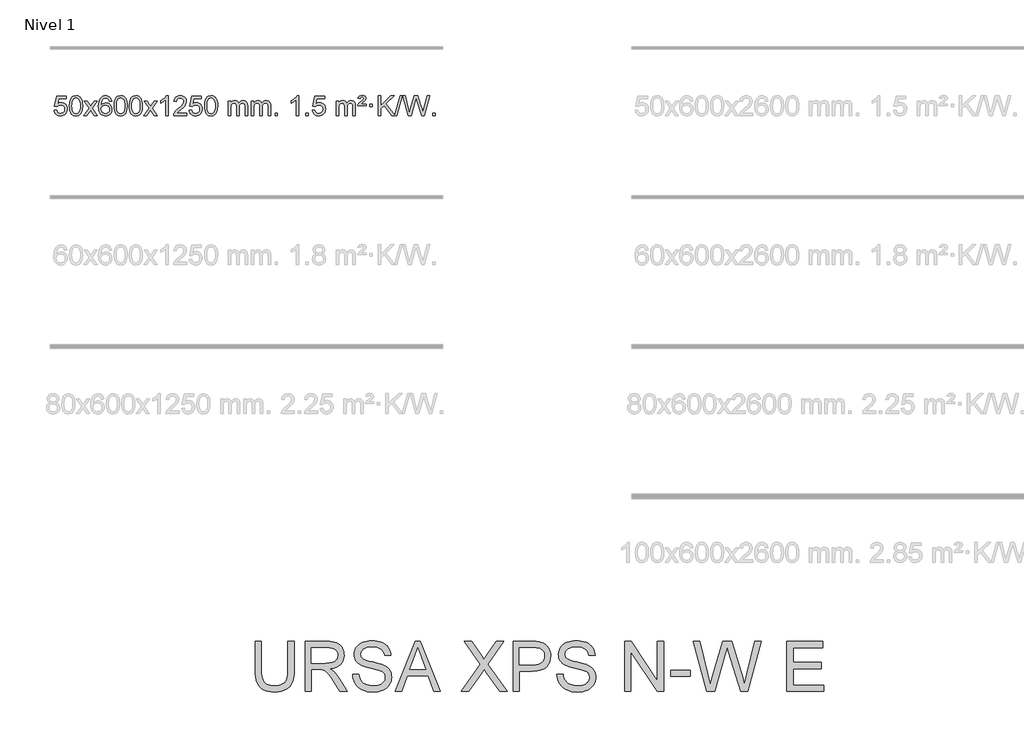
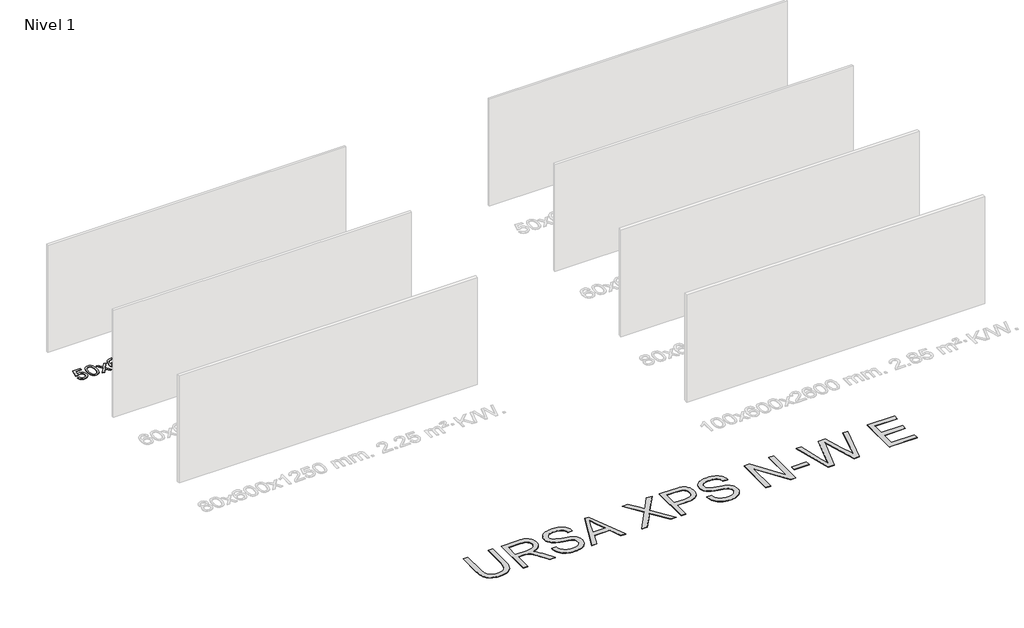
# One storey, part 3 of 9: 2 proxies.
"""IFC4 building model written with IfcOpenShell, lengths in millimetres."""

from ifc_helpers import new_model, si_unit, origin, origin_with_axes, place, context, project, spatial, polyline, outline, extrude, element, save

model = new_model("IFC4")

# Units and contexts
model_context = context("Model", 3, world=origin())
ifc_project = project(units=[si_unit("LENGTHUNIT", "METRE", prefix="MILLI")], contexts=[model_context])

# Site, building, storey
site = spatial("IfcSite", under=ifc_project)
building = spatial("IfcBuilding", under=site)
storey = spatial("IfcBuildingStorey", under=building, Name="Nivel 1", Elevation=0.0)

# Proxies
placement = place(None, origin())
element("IfcBuildingElementProxy", 1, Name="Texto de modelo 1", ObjectType="Texto de modelo 1", at=placement, inside=storey, context=model_context, shape_type="SweptSolid", body=[
    extrude(outline(polyline([(-6456.1697105, -284.8446235), (-6405.9415554, -278.5661041), (-6396.71998, -308.7201649), (-6380.6312741, -330.3148381), (-6357.749014, -343.3010725), (-6328.1467761, -347.6298173), (-6309.0169124, -346.1245668), (-6292.1433915, -341.6088153), (-6277.5262136, -334.0825628), (-6265.1653786, -323.5458094), (-6255.3367979, -310.519721), (-6248.3163832, -295.5254641), (-6242.7000514, -259.6324441), (-6247.9607639, -225.8363514), (-6254.5366546, -211.9181493), (-6263.7429015, -199.9865099), (-6275.6101615, -190.4154467), (-6290.1690915, -183.5789729), (-6327.3619612, -178.1097939), (-6351.728012, -180.2925604), (-6371.4587497, -186.8408599), (-6387.2163618, -196.8717757), (-6399.663036, -209.5023908), (-6449.8911911, -203.2238715), (-6405.9415554, 3.9672682), (-6211.3074545, 3.9672682), (-6211.3074545, -46.2608869), (-6365.3273831, -46.2608869), (-6386.8116916, -156.919791), (-6369.0859108, -144.2155994), (-6350.9309344, -135.1411769), (-6332.3467623, -129.6965234), (-6313.3333945, -127.8816388), (-6288.8723075, -130.1318504), (-6266.4039146, -136.882485), (-6245.9282159, -148.1335427), (-6227.4452113, -163.8850234), (-6212.144386, -183.1743027), (-6201.2152251, -205.038756), (-6194.6577285, -229.4783832), (-6192.4718963, -256.4931844), (-6194.440065, -282.5147042), (-6200.344571, -306.7213394), (-6210.1854144, -329.1130902), (-6223.9625951, -349.6899565), (-6244.833767, -370.7634634), (-6269.187555, -385.8159684), (-6297.0239593, -394.8474714), (-6328.3429799, -397.8579724), (-6354.2633321, -395.9235262), (-6377.6759554, -390.1201877), (-6398.5808498, -380.447957), (-6416.9780152, -366.9068338), (-6432.2849719, -350.1712688), (-6443.91924, -330.915712), (-6451.8808195, -309.1401636), (-6456.1697105, -284.8446235)])), origin_with_axes(), (0.0, 0.0, 1.0), 10.0),
    extrude(outline(polyline([(-6148.5222606, -193.9041943), (-6144.8311779, -129.5861588), (-6133.7579299, -78.2911459), (-6115.4128811, -39.2343407), (-6103.5548181, -24.0009605), (-6089.9063961, -11.6309284), (-6074.4216298, -2.0598651), (-6057.0545339, 4.7766086), (-6016.6733536, 10.2457876), (-5985.722215, 7.008426), (-5958.0084381, -2.7036586), (-5934.8318724, -18.5103217), (-5917.4923677, -40.0314184), (-5904.3957686, -67.0830078), (-5893.94792, -99.4811488), (-5887.1053149, -140.6226186), (-5884.8244465, -193.9041943), (-5888.478741, -257.8543477), (-5899.4416244, -309.0267333), (-5917.6763087, -348.1203266), (-5929.5067805, -363.3996922), (-5943.1460055, -375.8341036), (-5958.6491659, -385.4695462), (-5976.071444, -392.3520052), (-6016.6733536, -397.8579724), (-6044.3380796, -395.4667394), (-6068.8635459, -388.2930405), (-6090.2497526, -376.3368757), (-6108.4966996, -359.5982449), (-6126.0078825, -329.3399508), (-6138.5158704, -291.6381776), (-6146.0206631, -246.4929255), (-6148.5222606, -193.9041943)]), holes=[polyline([(-6098.2941056, -193.8060924), (-6096.8225776, -237.4706195), (-6092.4079936, -272.8148822), (-6085.0503537, -299.8388804), (-6074.7496579, -318.5426142), (-6062.290721, -331.2682656), (-6048.4583579, -340.3580165), (-6033.2525688, -345.8118671), (-6016.6733536, -347.6298173), (-6000.0941383, -345.8057357), (-5984.8883492, -340.3334911), (-5971.0559862, -331.2130833), (-5958.5970493, -318.4445124), (-5948.2963534, -299.7101217), (-5940.9387135, -272.6922549), (-5936.5241295, -237.3909118), (-5935.0526016, -193.8060924), (-5936.4750786, -151.2973278), (-5940.7425098, -116.5753989), (-5947.854895, -89.6403055), (-5957.8122343, -70.4920476), (-5970.0627048, -57.1440625), (-5984.0544833, -47.6097875), (-5999.78757, -41.8892225), (-6017.2619648, -39.9823675), (-6033.7553409, -41.6623619), (-6048.7036126, -46.7023452), (-6062.10678, -55.1023175), (-6073.9648429, -66.8622786), (-6084.6088953, -87.708925), (-6092.2117899, -115.8151094), (-6096.7735266, -151.1808319), (-6098.2941056, -193.8060924)])]), origin_with_axes(), (0.0, 0.0, 1.0), 10.0),
    extrude(outline(polyline([(-5859.7103689, -391.579453), (-5752.3869282, -243.2494325), (-5853.4318496, -96.4890419), (-5793.0011005, -96.4890419), (-5744.2444734, -167.122385), (-5721.4848406, -200.4770192), (-5701.7663657, -173.2047007), (-5646.2407099, -96.4890419), (-5585.8099608, -96.4890419), (-5691.9561791, -243.2494325), (-5589.7340354, -391.579453), (-5650.1647845, -391.579453), (-5711.6746541, -302.4048574), (-5722.9563686, -286.1199477), (-5799.2796199, -391.579453), (-5859.7103689, -391.579453)])), origin_with_axes(), (0.0, 0.0, 1.0), 10.0),
    extrude(outline(polyline([(-5300.9221437, -96.4890419), (-5351.1502988, -102.7675613), (-5359.2437027, -77.874213), (-5370.1820607, -60.8780648), (-5392.9662189, -45.2062918), (-5420.5083176, -39.9823675), (-5443.8565616, -43.0235253), (-5465.8313794, -52.1469988), (-5484.7037258, -71.3627017), (-5500.1179814, -97.8134171), (-5510.5290419, -135.227016), (-5514.3918028, -187.3313693), (-5494.2441322, -163.8237098), (-5470.0988106, -147.2567573), (-5443.3047386, -137.434308), (-5415.2108169, -134.1601582), (-5391.077758, -136.398107), (-5368.8086346, -143.1119534), (-5348.4034466, -154.3016975), (-5329.862194, -169.9673391), (-5314.4540698, -189.1769106), (-5303.4482668, -210.9984443), (-5296.844785, -235.4319401), (-5294.6436244, -262.4773982), (-5298.7884282, -298.4439945), (-5311.2228396, -331.786366), (-5330.9167891, -360.0642287), (-5356.840207, -380.8372987), (-5387.815871, -393.602804), (-5422.6665587, -397.8579724), (-5452.6090874, -395.0375437), (-5479.6514797, -386.5762579), (-5503.7937357, -372.4741147), (-5525.0358552, -352.7311143), (-5542.3539001, -326.5133908), (-5554.7239322, -292.9870783), (-5562.1459515, -252.1521768), (-5564.6199579, -204.0086864), (-5561.8731057, -150.0342663), (-5553.632549, -103.9693092), (-5539.8982878, -65.8138149), (-5520.6703222, -35.5677835), (-5499.8298072, -15.5243462), (-5475.6660915, -1.2076052), (-5448.179175, 7.3824394), (-5417.3690579, 10.2457876), (-5394.2354118, 8.4738227), (-5373.2967949, 3.1579278), (-5354.5532073, -5.7018969), (-5338.0046489, -18.1056515), (-5324.0987094, -33.6364031), (-5313.2829788, -51.8772186), (-5305.5574569, -72.8280983), (-5300.9221437, -96.4890419)]), holes=[polyline([(-5514.3918028, -261.6925832), (-5511.485535, -283.9494439), (-5502.7667318, -305.2007605), (-5489.2286743, -323.472233), (-5471.8646442, -336.7895612), (-5450.9076332, -344.9197533), (-5426.5906333, -347.6298173), (-5393.4444655, -342.0134855), (-5379.5293291, -334.9930708), (-5367.3861575, -325.1644901), (-5357.5361171, -312.9262824), (-5350.500374, -298.6769865), (-5344.8717794, -264.1451299), (-5350.4267976, -230.9989621), (-5357.3705702, -217.3781312), (-5367.0918519, -205.725469), (-5379.2718117, -196.3904634), (-5393.5916183, -189.7226022), (-5428.6507725, -184.3883133), (-5461.7478893, -189.7226022), (-5489.4248781, -205.725469), (-5500.3479076, -217.2248471), (-5508.1500716, -230.3858254), (-5512.83137, -245.2084042), (-5514.3918028, -261.6925832)])]), origin_with_axes(), (0.0, 0.0, 1.0), 10.0),
    extrude(outline(polyline([(-5250.6939887, -193.9041943), (-5247.002906, -129.5861588), (-5235.9296579, -78.2911459), (-5217.5846091, -39.2343407), (-5205.7265461, -24.0009605), (-5192.0781241, -11.6309284), (-5176.5933578, -2.0598651), (-5159.2262619, 4.7766086), (-5118.8450816, 10.2457876), (-5087.8939431, 7.008426), (-5060.1801661, -2.7036586), (-5037.0036004, -18.5103217), (-5019.6640957, -40.0314184), (-5006.5674967, -67.0830078), (-4996.119648, -99.4811488), (-4989.2770429, -140.6226186), (-4986.9961745, -193.9041943), (-4990.650469, -257.8543477), (-5001.6133525, -309.0267333), (-5019.8480367, -348.1203266), (-5031.6785085, -363.3996922), (-5045.3177335, -375.8341036), (-5060.8208939, -385.4695462), (-5078.2431721, -392.3520052), (-5118.8450816, -397.8579724), (-5146.5098076, -395.4667394), (-5171.035274, -388.2930405), (-5192.4214806, -376.3368757), (-5210.6684276, -359.5982449), (-5228.1796106, -329.3399508), (-5240.6875984, -291.6381776), (-5248.1923911, -246.4929255), (-5250.6939887, -193.9041943)]), holes=[polyline([(-5200.4658336, -193.8060924), (-5198.9943056, -237.4706195), (-5194.5797217, -272.8148822), (-5187.2220818, -299.8388804), (-5176.9213859, -318.5426142), (-5164.462449, -331.2682656), (-5150.630086, -340.3580165), (-5135.4242968, -345.8118671), (-5118.8450816, -347.6298173), (-5102.2658663, -345.8057357), (-5087.0600772, -340.3334911), (-5073.2277142, -331.2130833), (-5060.7687773, -318.4445124), (-5050.4680814, -299.7101217), (-5043.1104415, -272.6922549), (-5038.6958576, -237.3909118), (-5037.2243296, -193.8060924), (-5038.6468066, -151.2973278), (-5042.9142378, -116.5753989), (-5050.026623, -89.6403055), (-5059.9839624, -70.4920476), (-5072.2344328, -57.1440625), (-5086.2262114, -47.6097875), (-5101.959298, -41.8892225), (-5119.4336928, -39.9823675), (-5135.9270689, -41.6623619), (-5150.8753406, -46.7023452), (-5164.278508, -55.1023175), (-5176.136571, -66.8622786), (-5186.7806234, -87.708925), (-5194.3835179, -115.8151094), (-5198.9452547, -151.1808319), (-5200.4658336, -193.8060924)])]), origin_with_axes(), (0.0, 0.0, 1.0), 10.0),
    extrude(outline(polyline([(-4943.0465388, -193.9041943), (-4939.3554561, -129.5861588), (-4928.2822081, -78.2911459), (-4909.9371593, -39.2343407), (-4898.0790963, -24.0009605), (-4884.4306743, -11.6309284), (-4868.945908, -2.0598651), (-4851.5788121, 4.7766086), (-4811.1976318, 10.2457876), (-4780.2464932, 7.008426), (-4752.5327163, -2.7036586), (-4729.3561506, -18.5103217), (-4712.0166459, -40.0314184), (-4698.9200468, -67.0830078), (-4688.4721982, -99.4811488), (-4681.6295931, -140.6226186), (-4679.3487247, -193.9041943), (-4683.0030192, -257.8543477), (-4693.9659026, -309.0267333), (-4712.2005869, -348.1203266), (-4724.0310587, -363.3996922), (-4737.6702837, -375.8341036), (-4753.1734441, -385.4695462), (-4770.5957222, -392.3520052), (-4811.1976318, -397.8579724), (-4838.8623578, -395.4667394), (-4863.3878241, -388.2930405), (-4884.7740308, -376.3368757), (-4903.0209778, -359.5982449), (-4920.5321607, -329.3399508), (-4933.0401486, -291.6381776), (-4940.5449413, -246.4929255), (-4943.0465388, -193.9041943)]), holes=[polyline([(-4892.8183838, -193.8060924), (-4891.3468558, -237.4706195), (-4886.9322718, -272.8148822), (-4879.5746319, -299.8388804), (-4869.2739361, -318.5426142), (-4856.8149992, -331.2682656), (-4842.9826361, -340.3580165), (-4827.776847, -345.8118671), (-4811.1976318, -347.6298173), (-4794.6184165, -345.8057357), (-4779.4126274, -340.3334911), (-4765.5802644, -331.2130833), (-4753.1213275, -318.4445124), (-4742.8206316, -299.7101217), (-4735.4629917, -272.6922549), (-4731.0484077, -237.3909118), (-4729.5768798, -193.8060924), (-4730.9993568, -151.2973278), (-4735.266788, -116.5753989), (-4742.3791732, -89.6403055), (-4752.3365125, -70.4920476), (-4764.586983, -57.1440625), (-4778.5787615, -47.6097875), (-4794.3118482, -41.8892225), (-4811.786243, -39.9823675), (-4828.2796191, -41.6623619), (-4843.2278908, -46.7023452), (-4856.6310582, -55.1023175), (-4868.4891211, -66.8622786), (-4879.1331735, -87.708925), (-4886.7360681, -115.8151094), (-4891.2978048, -151.1808319), (-4892.8183838, -193.8060924)])]), origin_with_axes(), (0.0, 0.0, 1.0), 10.0),
    extrude(outline(polyline([(-4654.2346472, -391.579453), (-4546.9112064, -243.2494325), (-4647.9561278, -96.4890419), (-4587.5253787, -96.4890419), (-4538.7687516, -167.122385), (-4516.0091188, -200.4770192), (-4496.2906439, -173.2047007), (-4440.7649881, -96.4890419), (-4380.334239, -96.4890419), (-4486.4804574, -243.2494325), (-4384.2583136, -391.579453), (-4444.6890627, -391.579453), (-4506.1989323, -302.4048574), (-4517.4806468, -286.1199477), (-4593.8038981, -391.579453), (-4654.2346472, -391.579453)])), origin_with_axes(), (0.0, 0.0, 1.0), 10.0),
    extrude(outline(polyline([(-4164.5101352, -391.579453), (-4214.7382902, -391.579453), (-4214.7382902, -78.4382987), (-4235.707564, -95.3976587), (-4262.317695, -112.3324932), (-4315.1946004, -137.6918254), (-4315.1946004, -90.2105225), (-4275.7453878, -68.7507395), (-4241.5691504, -43.219729), (-4214.6279257, -16.0700378), (-4196.8837508, 10.2457876), (-4164.5101352, 10.2457876), (-4164.5101352, -391.579453)])), origin_with_axes(), (0.0, 0.0, 1.0), 10.0),
    extrude(outline(polyline([(-3787.7989721, -341.3512979), (-3787.7989721, -391.579453), (-4051.4967863, -391.579453), (-4050.3931403, -373.8965918), (-4046.1011837, -356.9494945), (-4033.7158232, -329.8856424), (-4015.5915035, -303.6311307), (-3989.37378, -276.1503456), (-3952.7082078, -245.4076736), (-3898.5069272, -197.2641831), (-3865.9861588, -161.7267824), (-3849.7257746, -132.884834), (-3844.3056466, -104.8277005), (-3849.4192063, -79.6768347), (-3864.7598855, -58.7688747), (-3888.3411214, -44.6789943), (-3918.1763512, -39.9823675), (-3949.5076345, -44.5686297), (-3973.8491598, -58.3274163), (-3989.557721, -80.1796068), (-3994.9901118, -109.0460807), (-4045.2182669, -102.7675613), (-4040.8987191, -76.838012), (-4033.0413728, -54.1826125), (-4021.646228, -34.8013627), (-4006.7132847, -18.6942627), (-3988.5858994, -6.0329907), (-3967.6074286, 3.010775), (-3943.7778724, 8.4370345), (-3917.0972307, 10.2457876), (-3890.1774657, 8.2346994), (-3866.2191508, 2.2014346), (-3845.2222859, -7.8540066), (-3827.1868711, -21.9316242), (-3812.7015175, -38.9890861), (-3802.3548364, -57.9840598), (-3796.1468277, -78.9165453), (-3794.0774915, -101.7865427), (-3796.3093089, -125.8092369), (-3803.0047612, -149.4149983), (-3814.8873497, -173.4254299), (-3832.6805755, -198.6621347), (-3861.0442774, -228.7916701), (-3904.6382938, -267.4805933), (-3962.4202925, -315.795762), (-3985.0818234, -341.3512979), (-3787.7989721, -341.3512979)])), origin_with_axes(), (0.0, 0.0, 1.0), 10.0),
    extrude(outline(polyline([(-3737.570817, -284.8446235), (-3687.342662, -278.5661041), (-3678.1210866, -308.7201649), (-3662.0323807, -330.3148381), (-3639.1501206, -343.3010725), (-3609.5478827, -347.6298173), (-3590.418019, -346.1245668), (-3573.5444981, -341.6088153), (-3558.9273202, -334.0825628), (-3546.5664851, -323.5458094), (-3536.7379045, -310.519721), (-3529.7174898, -295.5254641), (-3524.101158, -259.6324441), (-3529.3618705, -225.8363514), (-3535.9377612, -211.9181493), (-3545.1440081, -199.9865099), (-3557.0112681, -190.4154467), (-3571.5701981, -183.5789729), (-3608.7630678, -178.1097939), (-3633.1291186, -180.2925604), (-3652.8598563, -186.8408599), (-3668.6174684, -196.8717757), (-3681.0641426, -209.5023908), (-3731.2922977, -203.2238715), (-3687.342662, 3.9672682), (-3492.708561, 3.9672682), (-3492.708561, -46.2608869), (-3646.7284897, -46.2608869), (-3668.2127982, -156.919791), (-3650.4870174, -144.2155994), (-3632.332041, -135.1411769), (-3613.7478688, -129.6965234), (-3594.734501, -127.8816388), (-3570.273414, -130.1318504), (-3547.8050212, -136.882485), (-3527.3293225, -148.1335427), (-3508.8463179, -163.8850234), (-3493.5454926, -183.1743027), (-3482.6163316, -205.038756), (-3476.0588351, -229.4783832), (-3473.8730029, -256.4931844), (-3475.8411716, -282.5147042), (-3481.7456776, -306.7213394), (-3491.586521, -329.1130902), (-3505.3637017, -349.6899565), (-3526.2348735, -370.7634634), (-3550.5886616, -385.8159684), (-3578.4250659, -394.8474714), (-3609.7440864, -397.8579724), (-3635.6644387, -395.9235262), (-3659.077062, -390.1201877), (-3679.9819564, -380.447957), (-3698.3791218, -366.9068338), (-3713.6860785, -350.1712688), (-3725.3203466, -330.915712), (-3733.2819261, -309.1401636), (-3737.570817, -284.8446235)])), origin_with_axes(), (0.0, 0.0, 1.0), 10.0),
    extrude(outline(polyline([(-3429.9233672, -193.9041943), (-3426.2322845, -129.5861588), (-3415.1590365, -78.2911459), (-3396.8139876, -39.2343407), (-3384.9559247, -24.0009605), (-3371.3075026, -11.6309284), (-3355.8227363, -2.0598651), (-3338.4556405, 4.7766086), (-3298.0744601, 10.2457876), (-3267.1233216, 7.008426), (-3239.4095446, -2.7036586), (-3216.2329789, -18.5103217), (-3198.8934742, -40.0314184), (-3185.7968752, -67.0830078), (-3175.3490265, -99.4811488), (-3168.5064214, -140.6226186), (-3166.2255531, -193.9041943), (-3169.8798475, -257.8543477), (-3180.842731, -309.0267333), (-3199.0774152, -348.1203266), (-3210.9078871, -363.3996922), (-3224.547112, -375.8341036), (-3240.0502724, -385.4695462), (-3257.4725506, -392.3520052), (-3298.0744601, -397.8579724), (-3325.7391862, -395.4667394), (-3350.2646525, -388.2930405), (-3371.6508592, -376.3368757), (-3389.8978061, -359.5982449), (-3407.4089891, -329.3399508), (-3419.9169769, -291.6381776), (-3427.4217696, -246.4929255), (-3429.9233672, -193.9041943)]), holes=[polyline([(-3379.6952121, -193.8060924), (-3378.2236842, -237.4706195), (-3373.8091002, -272.8148822), (-3366.4514603, -299.8388804), (-3356.1507644, -318.5426142), (-3343.6918275, -331.2682656), (-3329.8594645, -340.3580165), (-3314.6536754, -345.8118671), (-3298.0744601, -347.6298173), (-3281.4952449, -345.8057357), (-3266.2894558, -340.3334911), (-3252.4570927, -331.2130833), (-3239.9981558, -318.4445124), (-3229.69746, -299.7101217), (-3222.3398201, -272.6922549), (-3217.9252361, -237.3909118), (-3216.4537081, -193.8060924), (-3217.8761852, -151.2973278), (-3222.1436163, -116.5753989), (-3229.2560016, -89.6403055), (-3239.2133409, -70.4920476), (-3251.4638113, -57.1440625), (-3265.4555899, -47.6097875), (-3281.1886766, -41.8892225), (-3298.6630713, -39.9823675), (-3315.1564474, -41.6623619), (-3330.1047192, -46.7023452), (-3343.5078865, -55.1023175), (-3355.3659495, -66.8622786), (-3366.0100019, -87.708925), (-3373.6128965, -115.8151094), (-3378.1746332, -151.1808319), (-3379.6952121, -193.8060924)])]), origin_with_axes(), (0.0, 0.0, 1.0), 10.0),
    extrude(outline(polyline([(-2952.755894, -391.579453), (-2952.755894, -96.4890419), (-2902.5277389, -96.4890419), (-2902.5277389, -145.0494653), (-2887.4200517, -122.7435537), (-2867.9958823, -105.2691589), (-2844.9174185, -93.9751816), (-2818.8468478, -90.2105225), (-2790.9123416, -94.048758), (-2768.5205908, -105.5634645), (-2751.7942228, -123.9943524), (-2740.8558648, -148.5811324), (-2722.5476041, -123.0439906), (-2701.6641696, -104.803175), (-2678.205561, -93.8586857), (-2652.1717785, -90.2105225), (-2632.0639617, -91.7280358), (-2614.414823, -96.2805755), (-2599.2243623, -103.8681416), (-2586.4925796, -114.4907342), (-2576.4279413, -128.2709806), (-2569.238914, -145.3315082), (-2564.9254976, -165.6723168), (-2563.4876922, -189.2934066), (-2563.4876922, -391.579453), (-2613.7158472, -391.579453), (-2613.7158472, -210.875817), (-2614.8808069, -185.8230531), (-2618.3756858, -168.9372695), (-2624.9239854, -157.3735121), (-2635.2492067, -148.2868268), (-2648.5297467, -142.4007149), (-2663.9440023, -140.4386776), (-2691.1550072, -145.4663982), (-2713.3382915, -160.54956), (-2721.9436645, -172.1194488), (-2728.0903595, -186.7182326), (-2733.0077155, -225.0024856), (-2733.0077155, -391.579453), (-2783.2358706, -391.579453), (-2783.2358706, -205.2840106), (-2786.1421384, -176.8835206), (-2794.8609417, -156.6254854), (-2810.2016209, -144.4853796), (-2832.9735164, -140.4386776), (-2852.3241093, -143.1364789), (-2870.1541233, -151.2298828), (-2884.8694032, -164.5226856), (-2894.8757934, -182.8186835), (-2900.6147525, -208.2025411), (-2902.5277389, -242.7589232), (-2902.5277389, -391.579453), (-2952.755894, -391.579453)])), origin_with_axes(), (0.0, 0.0, 1.0), 10.0),
    extrude(outline(polyline([(-2488.1454596, -391.579453), (-2488.1454596, -96.4890419), (-2437.9173045, -96.4890419), (-2437.9173045, -145.0494653), (-2422.8096172, -122.7435537), (-2403.3854479, -105.2691589), (-2380.306984, -93.9751816), (-2354.2364133, -90.2105225), (-2326.3019071, -94.048758), (-2303.9101564, -105.5634645), (-2287.1837883, -123.9943524), (-2276.2454303, -148.5811324), (-2257.9371697, -123.0439906), (-2237.0537351, -104.803175), (-2213.5951266, -93.8586857), (-2187.561344, -90.2105225), (-2167.4535273, -91.7280358), (-2149.8043886, -96.2805755), (-2134.6139279, -103.8681416), (-2121.8821452, -114.4907342), (-2111.8175069, -128.2709806), (-2104.6284796, -145.3315082), (-2100.3150632, -165.6723168), (-2098.8772577, -189.2934066), (-2098.8772577, -391.579453), (-2149.1054128, -391.579453), (-2149.1054128, -210.875817), (-2150.2703724, -185.8230531), (-2153.7652514, -168.9372695), (-2160.3135509, -157.3735121), (-2170.6387722, -148.2868268), (-2183.9193123, -142.4007149), (-2199.3335679, -140.4386776), (-2226.5445728, -145.4663982), (-2248.7278571, -160.54956), (-2257.3332301, -172.1194488), (-2263.4799251, -186.7182326), (-2268.3972811, -225.0024856), (-2268.3972811, -391.579453), (-2318.6254362, -391.579453), (-2318.6254362, -205.2840106), (-2321.5317039, -176.8835206), (-2330.2505072, -156.6254854), (-2345.5911864, -144.4853796), (-2368.3630819, -140.4386776), (-2387.7136749, -143.1364789), (-2405.5436889, -151.2298828), (-2420.2589687, -164.5226856), (-2430.265359, -182.8186835), (-2436.0043181, -208.2025411), (-2437.9173045, -242.7589232), (-2437.9173045, -391.579453), (-2488.1454596, -391.579453)])), origin_with_axes(), (0.0, 0.0, 1.0), 10.0),
    extrude(outline(polyline([(-2010.9779863, -391.579453), (-2010.9779863, -341.3512979), (-1960.7498313, -341.3512979), (-1960.7498313, -391.579453), (-2010.9779863, -391.579453)])), origin_with_axes(), (0.0, 0.0, 1.0), 10.0),
    extrude(outline(polyline([(-1533.8105131, -391.579453), (-1584.0386682, -391.579453), (-1584.0386682, -78.4382987), (-1605.0079419, -95.3976587), (-1631.6180729, -112.3324932), (-1684.4949784, -137.6918254), (-1684.4949784, -90.2105225), (-1645.0457657, -68.7507395), (-1610.8695284, -43.219729), (-1583.9283036, -16.0700378), (-1566.1841287, 10.2457876), (-1533.8105131, 10.2457876), (-1533.8105131, -391.579453)])), origin_with_axes(), (0.0, 0.0, 1.0), 10.0),
    extrude(outline(polyline([(-1389.4045673, -391.579453), (-1389.4045673, -341.3512979), (-1339.1764122, -341.3512979), (-1339.1764122, -391.579453), (-1389.4045673, -391.579453)])), origin_with_axes(), (0.0, 0.0, 1.0), 10.0),
    extrude(outline(polyline([(-1257.5556602, -284.8446235), (-1207.3275051, -278.5661041), (-1198.1059298, -308.7201649), (-1182.0172239, -330.3148381), (-1159.1349638, -343.3010725), (-1129.5327259, -347.6298173), (-1110.4028621, -346.1245668), (-1093.5293413, -341.6088153), (-1078.9121634, -334.0825628), (-1066.5513283, -323.5458094), (-1056.7227477, -310.519721), (-1049.7023329, -295.5254641), (-1044.0860012, -259.6324441), (-1049.3467137, -225.8363514), (-1055.9226043, -211.9181493), (-1065.1288513, -199.9865099), (-1076.9961113, -190.4154467), (-1091.5550413, -183.5789729), (-1128.747911, -178.1097939), (-1153.1139618, -180.2925604), (-1172.8446995, -186.8408599), (-1188.6023116, -196.8717757), (-1201.0489858, -209.5023908), (-1251.2771408, -203.2238715), (-1207.3275051, 3.9672682), (-1012.6934042, 3.9672682), (-1012.6934042, -46.2608869), (-1166.7133329, -46.2608869), (-1188.1976414, -156.919791), (-1170.4718606, -144.2155994), (-1152.3168841, -135.1411769), (-1133.732712, -129.6965234), (-1114.7193442, -127.8816388), (-1090.2582572, -130.1318504), (-1067.7898644, -136.882485), (-1047.3141657, -148.1335427), (-1028.8311611, -163.8850234), (-1013.5303358, -183.1743027), (-1002.6011748, -205.038756), (-996.0436783, -229.4783832), (-993.8578461, -256.4931844), (-995.8260148, -282.5147042), (-1001.7305208, -306.7213394), (-1011.5713641, -329.1130902), (-1025.3485449, -349.6899565), (-1046.2197167, -370.7634634), (-1070.5735048, -385.8159684), (-1098.4099091, -394.8474714), (-1129.7289296, -397.8579724), (-1155.6492819, -395.9235262), (-1179.0619052, -390.1201877), (-1199.9667996, -380.447957), (-1218.363965, -366.9068338), (-1233.6709217, -350.1712688), (-1245.3051898, -330.915712), (-1253.2667693, -309.1401636), (-1257.5556602, -284.8446235)])), origin_with_axes(), (0.0, 0.0, 1.0), 10.0),
    extrude(outline(polyline([(-780.388187, -391.579453), (-780.388187, -96.4890419), (-730.1600319, -96.4890419), (-730.1600319, -145.0494653), (-715.0523447, -122.7435537), (-695.6281753, -105.2691589), (-672.5497115, -93.9751816), (-646.4791408, -90.2105225), (-618.5446346, -94.048758), (-596.1528838, -105.5634645), (-579.4265158, -123.9943524), (-568.4881578, -148.5811324), (-550.1798972, -123.0439906), (-529.2964626, -104.803175), (-505.837854, -93.8586857), (-479.8040715, -90.2105225), (-459.6962548, -91.7280358), (-442.047116, -96.2805755), (-426.8566553, -103.8681416), (-414.1248726, -114.4907342), (-404.0602344, -128.2709806), (-396.871207, -145.3315082), (-392.5577906, -165.6723168), (-391.1199852, -189.2934066), (-391.1199852, -391.579453), (-441.3481403, -391.579453), (-441.3481403, -210.875817), (-442.5130999, -185.8230531), (-446.0079789, -168.9372695), (-452.5562784, -157.3735121), (-462.8814997, -148.2868268), (-476.1620397, -142.4007149), (-491.5762953, -140.4386776), (-518.7873002, -145.4663982), (-540.9705845, -160.54956), (-549.5759576, -172.1194488), (-555.7226526, -186.7182326), (-560.6400086, -225.0024856), (-560.6400086, -391.579453), (-610.8681636, -391.579453), (-610.8681636, -205.2840106), (-613.7744314, -176.8835206), (-622.4932347, -156.6254854), (-637.8339139, -144.4853796), (-660.6058094, -140.4386776), (-679.9564023, -143.1364789), (-697.7864164, -151.2298828), (-712.5016962, -164.5226856), (-722.5080864, -182.8186835), (-728.2470456, -208.2025411), (-730.1600319, -242.7589232), (-730.1600319, -391.579453), (-780.388187, -391.579453)])), origin_with_axes(), (0.0, 0.0, 1.0), 10.0),
    extrude(outline(polyline([(-347.1703495, -190.6668327), (-343.3443767, -174.8479069), (-335.0057182, -158.9799302), (-313.4968842, -133.8413272), (-281.5402016, -106.1030247), (-237.3943621, -68.726214), (-230.2574514, -57.1992448), (-227.8784812, -45.3779701), (-229.7669421, -33.2869152), (-235.4323248, -23.5012541), (-244.801053, -17.026531), (-257.7995501, -14.8682899), (-270.2339616, -16.4869707), (-279.0876549, -21.343013), (-285.5133271, -30.8098431), (-290.663675, -46.2608869), (-340.8918301, -39.9823675), (-330.051574, -14.7701881), (-313.4233078, 2.7900458), (-289.6581309, 13.0907417), (-257.4071427, 16.524307), (-221.6244873, 12.3917659), (-196.8782917, -0.0058573), (-182.4573175, -18.3386434), (-177.6503261, -40.2766731), (-181.746079, -63.1834586), (-194.0333376, -84.8149199), (-214.561153, -104.6314968), (-251.0305214, -132.6886303), (-276.6351083, -159.2742358), (-177.6503261, -159.2742358), (-177.6503261, -190.6668327), (-347.1703495, -190.6668327)])), origin_with_axes(), (0.0, 0.0, 1.0), 10.0),
    extrude(outline(polyline([(-102.3080935, -215.7809102), (-102.3080935, -165.5527552), (-52.0799384, -165.5527552), (-52.0799384, -215.7809102), (-102.3080935, -215.7809102)])), origin_with_axes(), (0.0, 0.0, 1.0), 10.0),
    extrude(outline(polyline([(338.5616895, -391.579453), (185.1303721, -188.9009991), (117.440085, -253.4520265), (117.440085, -391.579453), (67.2119299, -391.579453), (67.2119299, 10.2457876), (117.440085, 10.2457876), (117.440085, -186.4484525), (323.4540023, 10.2457876), (393.6949379, 10.2457876), (220.7413492, -154.9577537), (395.3949591, -385.5349332), (506.7082868, 10.2457876), (552.0313486, 10.2457876), (439.0179997, -391.579453), (399.9734572, -391.579453), (393.6949379, -391.579453), (338.5616895, -391.579453)])), origin_with_axes(), (0.0, 0.0, 1.0), 10.0),
    extrude(outline(polyline([(666.5162255, -391.579453), (556.9364419, 10.2457876), (608.7342268, 10.2457876), (672.3042355, -253.844434), (691.9246086, -335.3670841), (712.9184078, -263.2622131), (792.5771225, 10.2457876), (867.2326421, 10.2457876), (925.1127426, -188.0180823), (949.9079891, -261.5944814), (968.1794615, -335.3670841), (987.2112234, -256.1988788), (1051.3698434, 10.2457876), (1103.1676283, 10.2457876), (993.4897428, -391.579453), (939.8280224, -391.579453), (843.4919906, -81.5775584), (830.0520351, -38.3146358), (814.9443478, -90.4067263), (727.1431783, -391.579453), (666.5162255, -391.579453)])), origin_with_axes(), (0.0, 0.0, 1.0), 10.0),
    extrude(outline(polyline([(1159.6743028, -391.579453), (1159.6743028, -341.3512979), (1209.9024578, -341.3512979), (1209.9024578, -391.579453), (1159.6743028, -391.579453)])), origin_with_axes(), (0.0, 0.0, 1.0), 10.0),
])
element("IfcBuildingElementProxy", 2, Name="Texto de modelo 2", ObjectType="Texto de modelo 2", at=placement, inside=storey, context=model_context, shape_type="SweptSolid", body=[
    extrude(outline(polyline([(-1751.1233615, -10983.8387308), (-1625.5529738, -10983.8387308), (-1625.5529738, -11563.3755006), (-1627.6836237, -11635.1354823), (-1634.0755734, -11699.0933), (-1644.7288228, -11755.2489537), (-1659.643372, -11803.6024434), (-1680.106808, -11845.985515), (-1707.4067177, -11884.229914), (-1741.5431012, -11918.3356407), (-1782.5159584, -11948.3026949), (-1830.3712746, -11972.7131981), (-1885.1550351, -11990.1492718), (-1946.8672398, -12000.6109161), (-2015.5078887, -12004.0981308), (-2082.4547476, -12001.0631043), (-2143.0096569, -11991.958025), (-2197.1726164, -11976.7828927), (-2244.9436264, -11955.5377074), (-2286.3303508, -11928.5367018), (-2321.340454, -11896.0941084), (-2349.973936, -11858.2099271), (-2372.2307967, -11814.8841579), (-2388.915778, -11764.6299446), (-2400.8336218, -11705.9604305), (-2407.9843281, -11638.8756159), (-2410.3678969, -11563.3755006), (-2410.3678969, -10983.8387308), (-2284.7975092, -10983.8387308), (-2284.7975092, -11558.9609166), (-2283.2493391, -11619.66911), (-2278.6048289, -11671.8087187), (-2270.8639786, -11715.3797425), (-2260.0267882, -11750.3821815), (-2245.4188073, -11779.3452244), (-2226.3655856, -11804.7980599), (-2202.8671232, -11826.7406881), (-2174.9234199, -11845.1731089), (-2143.0709705, -11859.7657614), (-2107.8462695, -11870.1890846), (-2069.2493168, -11876.4430785), (-2027.2801125, -11878.5277431), (-1958.0723122, -11874.4043991), (-1899.5637465, -11862.034367), (-1851.7544156, -11841.4176468), (-1831.8619631, -11828.0167788), (-1814.6443193, -11812.5542386), (-1799.7565948, -11794.1601389), (-1786.8539003, -11771.9645918), (-1767.003601, -11716.1691559), (-1755.0934214, -11645.1679308), (-1751.1233615, -11558.9609166), (-1751.1233615, -10983.8387308)])), origin_with_axes(), (0.0, 0.0, 1.0), 10.0),
    extrude(outline(polyline([(-1405.8047954, -11988.4018323), (-1405.8047954, -10983.8387308), (-972.9303144, -10983.8387308), (-910.7965782, -10985.5325209), (-856.5876334, -10990.6138909), (-810.3034799, -10999.082841), (-771.9441177, -11010.9393712), (-739.2792622, -11027.0955221), (-710.0786288, -11048.4633347), (-684.3422176, -11075.0428088), (-662.0700284, -11106.8339446), (-644.0974601, -11142.1276235), (-631.2599113, -11179.2147271), (-623.5573821, -11218.0952555), (-620.9898723, -11258.7692086), (-625.2435079, -11310.3646584), (-638.0044146, -11357.7294653), (-659.2725924, -11400.8636292), (-689.0480414, -11439.7671502), (-727.713972, -11473.1984265), (-775.6535944, -11499.9158564), (-832.8669089, -11519.9194399), (-899.3539153, -11533.209177), (-857.9671909, -11560.2485036), (-827.9848083, -11586.9199483), (-776.5426426, -11647.9270458), (-726.2041229, -11716.1691559), (-558.6951878, -11988.4018323), (-704.6217125, -11988.4018323), (-835.3424482, -11780.1806231), (-887.6430051, -11700.7181121), (-929.7654936, -11642.3475022), (-964.8675673, -11602.1563942), (-996.1068801, -11577.2323891), (-1025.6907238, -11562.6090798), (-1055.8263906, -11553.3200594), (-1128.6670257, -11548.9054754), (-1280.2344077, -11548.9054754), (-1280.2344077, -11988.4018323), (-1405.8047954, -11988.4018323)]), holes=[polyline([(-1280.2344077, -11423.3350877), (-999.1725634, -11423.3350877), (-918.4531222, -11418.889847), (-855.8212126, -11405.5541246), (-830.6366243, -11395.3300709), (-808.6710035, -11382.4388726), (-789.9243502, -11366.8805299), (-774.3966643, -11348.6550427), (-762.2182374, -11328.6591234), (-753.5193611, -11307.7894844), (-748.3000353, -11286.0461257), (-746.56026, -11263.4290472), (-749.8788622, -11231.3160147), (-759.8346687, -11202.176695), (-776.4276795, -11176.0110881), (-799.6578946, -11152.819194), (-830.0618087, -11133.827286), (-868.1759162, -11120.2616374), (-914.0002173, -11112.1222482), (-967.5347118, -11109.4091185), (-1280.2344077, -11109.4091185), (-1280.2344077, -11423.3350877)])]), origin_with_axes(), (0.0, 0.0, 1.0), 10.0),
    extrude(outline(polyline([(-448.3305892, -11643.0832662), (-322.7602016, -11643.0832662), (-317.0120454, -11679.6338753), (-308.3514901, -11712.7662475), (-296.7785356, -11742.4803828), (-282.2931821, -11768.7762812), (-264.1596654, -11792.1827732), (-241.6422216, -11813.228689), (-214.7408507, -11831.9140286), (-183.4555527, -11848.2387922), (-148.9359588, -11861.4902082), (-112.3317003, -11870.9555054), (-73.6427772, -11876.6346837), (-32.8691894, -11878.5277431), (37.0897034, -11872.7949154), (68.8041971, -11865.6288807), (98.3420556, -11855.5964321), (124.9751792, -11843.0577874), (147.9754681, -11828.3731644), (167.3429223, -11811.5425632), (183.0775418, -11792.5659836), (195.2559687, -11772.263496), (203.954845, -11751.4551706), (209.1741708, -11730.1410075), (210.9139461, -11708.3210067), (205.7022845, -11666.2904887), (190.0672997, -11629.9621417), (176.9155184, -11613.8443118), (158.3068208, -11598.9680836), (134.241207, -11585.3334572), (104.7186768, -11572.9404325), (38.4079472, -11553.2280889), (-78.1186748, -11524.9931457), (-198.1401757, -11493.2633237), (-241.9411257, -11477.9732282), (-274.9355422, -11463.0663432), (-308.4664532, -11443.0627597), (-337.4448245, -11420.8212274), (-361.8706562, -11396.3417463), (-381.7439481, -11369.6243164), (-397.1413425, -11340.9448492), (-408.1394813, -11310.5792562), (-414.7383646, -11278.5275374), (-416.9379923, -11244.7896928), (-414.2171984, -11207.3960208), (-406.0548166, -11171.2439506), (-392.450847, -11136.333482), (-373.4052896, -11102.6646153), (-349.1327421, -11071.6092435), (-319.8478024, -11044.53926), (-285.5504706, -11021.4546648), (-246.2407466, -11002.3554579), (-203.2445384, -10987.3872593), (-157.887754, -10976.6956888), (-110.1703936, -10970.2807465), (-60.092457, -10968.1424324), (-5.4619807, -10970.3803812), (45.8575576, -10977.0942276), (93.866158, -10988.2839716), (138.5638204, -11003.9496132), (179.1228104, -11023.9531967), (214.7153934, -11048.1567663), (245.3415695, -11076.560322), (271.0013387, -11109.1638639), (291.4954315, -11145.01703), (306.6245785, -11183.1694586), (316.3887798, -11223.6211496), (320.7880353, -11266.3721031), (195.2176477, -11266.3721031), (186.8176754, -11226.3036225), (172.1637093, -11191.4468035), (151.2557492, -11161.801646), (124.0937953, -11137.3681502), (90.1720096, -11118.2689432), (48.9845546, -11104.6266526), (0.5314301, -11096.4412782), (-55.1873637, -11093.7128201), (-112.6842539, -11096.4106214), (-161.8118287, -11104.5040253), (-202.570088, -11117.9930317), (-234.959032, -11136.8776408), (-259.6377825, -11159.5790256), (-277.2654615, -11184.5183592), (-287.8420688, -11211.6956416), (-291.3676046, -11241.1108728), (-288.8690727, -11266.4180884), (-281.3734771, -11289.3647278), (-268.8808177, -11309.9507911), (-251.3910945, -11328.1762783), (-223.8612585, -11345.4360753), (-180.5124968, -11362.8798132), (-121.3448092, -11380.5074921), (-46.3581958, -11398.3191121), (92.0880617, -11431.9803146), (140.8017692, -11447.2014322), (175.8425292, -11461.3495606), (214.3398472, -11482.7940152), (247.4262341, -11506.9056143), (275.1016901, -11533.6843579), (297.366215, -11563.1302459), (314.480392, -11595.0899942), (326.7048041, -11629.4103187), (334.0394514, -11666.0912193), (336.4843338, -11705.1326961), (333.6715694, -11744.4117632), (325.2332761, -11782.5411992), (311.169454, -11819.5210039), (291.4801031, -11855.3511774), (266.5101126, -11888.644498), (236.6043721, -11918.0137439), (201.7628815, -11943.4589153), (161.9856408, -11964.980012), (118.4299454, -11982.094189), (72.2530908, -11994.3186011), (23.4550769, -12001.6532484), (-27.9640961, -12004.0981308), (-92.1978253, -12001.4616432), (-150.9899666, -11993.5521803), (-204.3405201, -11980.3697421), (-252.2494858, -11961.9143287), (-295.0081035, -11938.1552832), (-332.9076133, -11909.0619487), (-365.9480149, -11874.6343253), (-394.1293086, -11834.872413), (-416.8306934, -11791.0637988), (-433.4313684, -11744.4960695), (-443.9313337, -11695.1692253), (-448.3305892, -11643.0832662)])), origin_with_axes(), (0.0, 0.0, 1.0), 10.0),
    extrude(outline(polyline([(407.8534409, -11988.4018323), (808.8448156, -10983.8387308), (915.7758489, -10983.8387308), (1316.7672236, -11988.4018323), (1184.0844507, -11988.4018323), (1069.0600135, -11674.4758631), (655.3153963, -11674.4758631), (540.5362138, -11988.4018323), (407.8534409, -11988.4018323)]), holes=[polyline([(701.423273, -11548.9054754), (1023.1973915, -11548.9054754), (932.6984207, -11301.9340293), (862.3103322, -11109.4091185), (799.7703931, -11280.351619), (701.423273, -11548.9054754)])]), origin_with_axes(), (0.0, 0.0, 1.0), 10.0),
    extrude(outline(polyline([(1733.4548968, -11988.4018323), (2120.7120104, -11440.9934235), (1796.2400907, -10983.8387308), (1946.826454, -10983.8387308), (2129.5411783, -11241.1108728), (2173.1351947, -11306.2872996), (2191.1000988, -11341.4200302), (2263.2049699, -11239.3940902), (2443.9576568, -10983.8387308), (2596.7513122, -10983.8387308), (2272.2793924, -11442.4649515), (2659.536506, -11988.4018323), (2508.9501427, -11988.4018323), (2250.9422367, -11624.4439118), (2197.2314654, -11548.9054754), (2138.1250915, -11631.8015517), (1886.2485522, -11988.4018323), (1733.4548968, -11988.4018323)])), origin_with_axes(), (0.0, 0.0, 1.0), 10.0),
    extrude(outline(polyline([(2785.1068937, -11988.4018323), (2785.1068937, -10983.8387308), (3157.4034728, -10983.8387308), (3244.1009963, -10986.2299638), (3307.4993269, -10993.4036627), (3342.4404522, -11000.9375794), (3374.4231931, -11011.2765963), (3403.4475497, -11024.4207134), (3429.5135219, -11040.3699308), (3452.8970212, -11059.4538093), (3473.8739592, -11082.0019099), (3492.4443357, -11108.0142326), (3508.6081509, -11137.4907775), (3521.6986185, -11169.45819), (3531.0489526, -11202.9431158), (3536.659153, -11237.9455548), (3538.5292198, -11274.465507), (3533.4785066, -11336.1317265), (3518.3263669, -11392.8621958), (3493.0728008, -11444.656915), (3457.7178082, -11491.5158842), (3435.4820241, -11512.3242095), (3409.1803775, -11530.3580915), (3378.8128684, -11545.6175301), (3344.3794969, -11558.1025253), (3305.8802629, -11567.8130771), (3263.3151664, -11574.7491856), (3165.987386, -11580.2980724), (2910.6772814, -11580.2980724), (2910.6772814, -11988.4018323), (2785.1068937, -11988.4018323)]), holes=[polyline([(2910.6772814, -11454.7276847), (3173.3450259, -11454.7276847), (3233.7389868, -11451.8459424), (3284.6906431, -11443.2007155), (3326.1999949, -11428.792004), (3358.2670422, -11408.6198079), (3382.1947003, -11383.2206219), (3399.2858846, -11353.1309403), (3409.5405953, -11318.3507634), (3412.9588321, -11278.880091), (3410.9431454, -11249.5721587), (3404.8960851, -11222.4715184), (3394.8176512, -11197.57817), (3380.7078439, -11174.8921137), (3363.3177554, -11155.1491133), (3343.3984782, -11139.0849328), (3320.9500123, -11126.6995723), (3295.9723577, -11117.9930317), (3247.5345616, -11111.5550968), (3170.40197, -11109.4091185), (2910.6772814, -11109.4091185), (2910.6772814, -11454.7276847)])]), origin_with_axes(), (0.0, 0.0, 1.0), 10.0),
    extrude(outline(polyline([(3664.0996075, -11643.0832662), (3789.6699952, -11643.0832662), (3795.4181514, -11679.6338753), (3804.0787067, -11712.7662475), (3815.6516611, -11742.4803828), (3830.1370147, -11768.7762812), (3848.2705313, -11792.1827732), (3870.7879751, -11813.228689), (3897.689346, -11831.9140286), (3928.974644, -11848.2387922), (3963.4942379, -11861.4902082), (4000.0984964, -11870.9555054), (4038.7874196, -11876.6346837), (4079.5610074, -11878.5277431), (4149.5199001, -11872.7949154), (4181.2343938, -11865.6288807), (4210.7722523, -11855.5964321), (4237.405376, -11843.0577874), (4260.4056649, -11828.3731644), (4279.7731191, -11811.5425632), (4295.5077386, -11792.5659836), (4307.6861654, -11772.263496), (4316.3850418, -11751.4551706), (4321.6043676, -11730.1410075), (4323.3441429, -11708.3210067), (4318.1324813, -11666.2904887), (4302.4974965, -11629.9621417), (4289.3457151, -11613.8443118), (4270.7370176, -11598.9680836), (4246.6714037, -11585.3334572), (4217.1488736, -11572.9404325), (4150.838144, -11553.2280889), (4034.311522, -11524.9931457), (3914.2900211, -11493.2633237), (3870.489071, -11477.9732282), (3837.4946546, -11463.0663432), (3803.9637435, -11443.0627597), (3774.9853722, -11420.8212274), (3750.5595406, -11396.3417463), (3730.6862486, -11369.6243164), (3715.2888543, -11340.9448492), (3704.2907155, -11310.5792562), (3697.6918322, -11278.5275374), (3695.4922044, -11244.7896928), (3698.2129984, -11207.3960208), (3706.3753801, -11171.2439506), (3719.9793497, -11136.333482), (3739.0249072, -11102.6646153), (3763.2974547, -11071.6092435), (3792.5823943, -11044.53926), (3826.8797262, -11021.4546648), (3866.1894502, -11002.3554579), (3909.1856584, -10987.3872593), (3954.5424427, -10976.6956888), (4002.2598032, -10970.2807465), (4052.3377398, -10968.1424324), (4106.968216, -10970.3803812), (4158.2877544, -10977.0942276), (4206.2963547, -10988.2839716), (4250.9940171, -11003.9496132), (4291.5530071, -11023.9531967), (4327.1455901, -11048.1567663), (4357.7717662, -11076.560322), (4383.4315354, -11109.1638639), (4403.9256282, -11145.01703), (4419.0547753, -11183.1694586), (4428.8189766, -11223.6211496), (4433.2182321, -11266.3721031), (4307.6478444, -11266.3721031), (4299.2478722, -11226.3036225), (4284.593906, -11191.4468035), (4263.685946, -11161.801646), (4236.523992, -11137.3681502), (4202.6022064, -11118.2689432), (4161.4147513, -11104.6266526), (4112.9616269, -11096.4412782), (4057.242833, -11093.7128201), (3999.7459429, -11096.4106214), (3950.6183681, -11104.5040253), (3909.8601087, -11117.9930317), (3877.4711647, -11136.8776408), (3852.7924142, -11159.5790256), (3835.1647353, -11184.5183592), (3824.5881279, -11211.6956416), (3821.0625921, -11241.1108728), (3823.561124, -11266.4180884), (3831.0567197, -11289.3647278), (3843.5493791, -11309.9507911), (3861.0391023, -11328.1762783), (3888.5689382, -11345.4360753), (3931.9177, -11362.8798132), (3991.0853876, -11380.5074921), (4066.0720009, -11398.3191121), (4204.5182584, -11431.9803146), (4253.231966, -11447.2014322), (4288.272726, -11461.3495606), (4326.7700439, -11482.7940152), (4359.8564309, -11506.9056143), (4387.5318868, -11533.6843579), (4409.7964117, -11563.1302459), (4426.9105887, -11595.0899942), (4439.1350008, -11629.4103187), (4446.4696481, -11666.0912193), (4448.9145306, -11705.1326961), (4446.1017661, -11744.4117632), (4437.6634729, -11782.5411992), (4423.5996508, -11819.5210039), (4403.9102998, -11855.3511774), (4378.9403094, -11888.644498), (4349.0345689, -11918.0137439), (4314.1930782, -11943.4589153), (4274.4158375, -11964.980012), (4230.8601421, -11982.094189), (4184.6832875, -11994.3186011), (4135.8852737, -12001.6532484), (4084.4661007, -12004.0981308), (4020.2323715, -12001.4616432), (3961.4402301, -11993.5521803), (3908.0896766, -11980.3697421), (3860.1807109, -11961.9143287), (3817.4220932, -11938.1552832), (3779.5225835, -11909.0619487), (3746.4821818, -11874.6343253), (3718.3008881, -11834.872413), (3695.5995033, -11791.0637988), (3678.9988283, -11744.4960695), (3668.498863, -11695.1692253), (3664.0996075, -11643.0832662)])), origin_with_axes(), (0.0, 0.0, 1.0), 10.0),
    extrude(outline(polyline([(5029.6775736, -11988.4018323), (5029.6775736, -10983.8387308), (5164.0771292, -10983.8387308), (5688.922109, -11779.6901137), (5688.922109, -10983.8387308), (5814.4924966, -10983.8387308), (5814.4924966, -11988.4018323), (5680.0929411, -11988.4018323), (5155.2479613, -11192.3051948), (5155.2479613, -11988.4018323), (5029.6775736, -11988.4018323)])), origin_with_axes(), (0.0, 0.0, 1.0), 10.0),
    extrude(outline(polyline([(5955.7591828, -11690.1721616), (5955.7591828, -11564.6017739), (6348.1666443, -11564.6017739), (6348.1666443, -11690.1721616), (5955.7591828, -11690.1721616)])), origin_with_axes(), (0.0, 0.0, 1.0), 10.0),
    extrude(outline(polyline([(6684.9012972, -11988.4018323), (6410.9518382, -10983.8387308), (6540.4463005, -10983.8387308), (6699.3713224, -11644.0642849), (6748.4222551, -11847.8709102), (6800.906753, -11667.6087325), (7000.0535398, -10983.8387308), (7186.6923387, -10983.8387308), (7331.3925901, -11479.4984057), (7364.4253276, -11571.4075908), (7393.3807063, -11663.4394033), (7418.2587262, -11755.5938431), (7439.0593873, -11847.8709102), (7486.6387921, -11649.9503968), (7647.035342, -10983.8387308), (7776.5298043, -10983.8387308), (7502.3350905, -11988.4018323), (7368.1807896, -11988.4018323), (7127.3407101, -11213.3970958), (7093.7408212, -11105.2397892), (7055.971603, -11235.4700155), (6836.4686792, -11988.4018323), (6684.9012972, -11988.4018323)])), origin_with_axes(), (0.0, 0.0, 1.0), 10.0),
    extrude(outline(polyline([(8294.5076535, -11988.4018323), (8294.5076535, -10983.8387308), (9016.5373827, -10983.8387308), (9016.5373827, -11109.4091185), (8420.0780412, -11109.4091185), (8420.0780412, -11407.6387893), (8985.1447857, -11407.6387893), (8985.1447857, -11533.209177), (8420.0780412, -11533.209177), (8420.0780412, -11862.8314446), (9032.2336811, -11862.8314446), (9032.2336811, -11988.4018323), (8294.5076535, -11988.4018323)])), origin_with_axes(), (0.0, 0.0, 1.0), 10.0),
])

save(model, "model.ifc")
